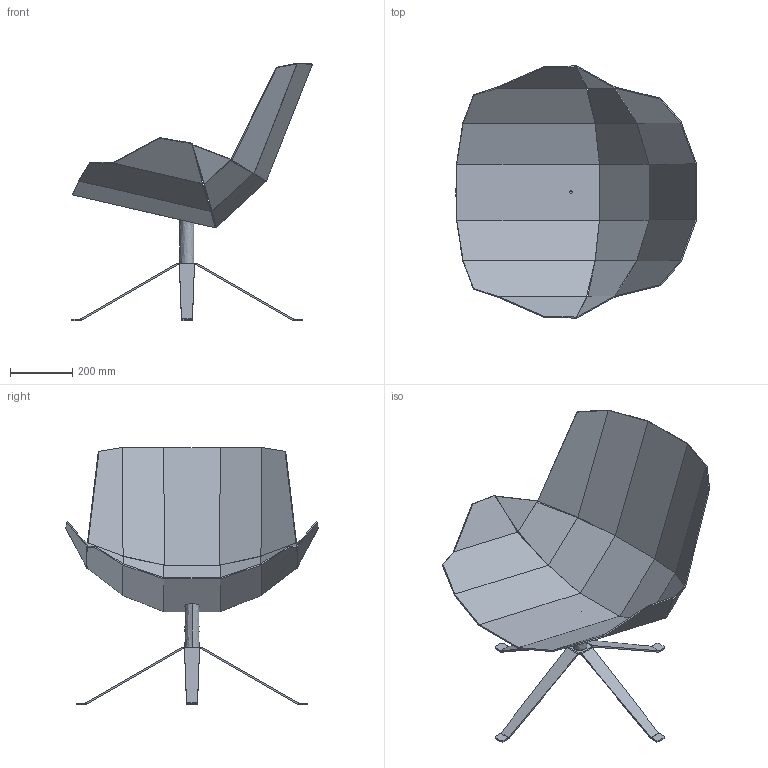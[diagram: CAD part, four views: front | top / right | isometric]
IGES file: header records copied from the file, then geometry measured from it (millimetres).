
Start section: Comment
Global section: file name: Martini-Chair.igs; native system:  By UGS Corp.; preprocessor: XPlus GENERIC/IGES 3.0; author: Author; organization: Title; date: 20181030.153240; units: inch
Bounding box: 773.59 x 811.97 x 826.17 mm (x, y, z)
Surface area: 1780437.5 mm2 (no closed solid volume)
Topology: 0 solids, 0 shells, 256 faces, 1126 edges, 1126 vertices
Faces by surface type: bspline 256
